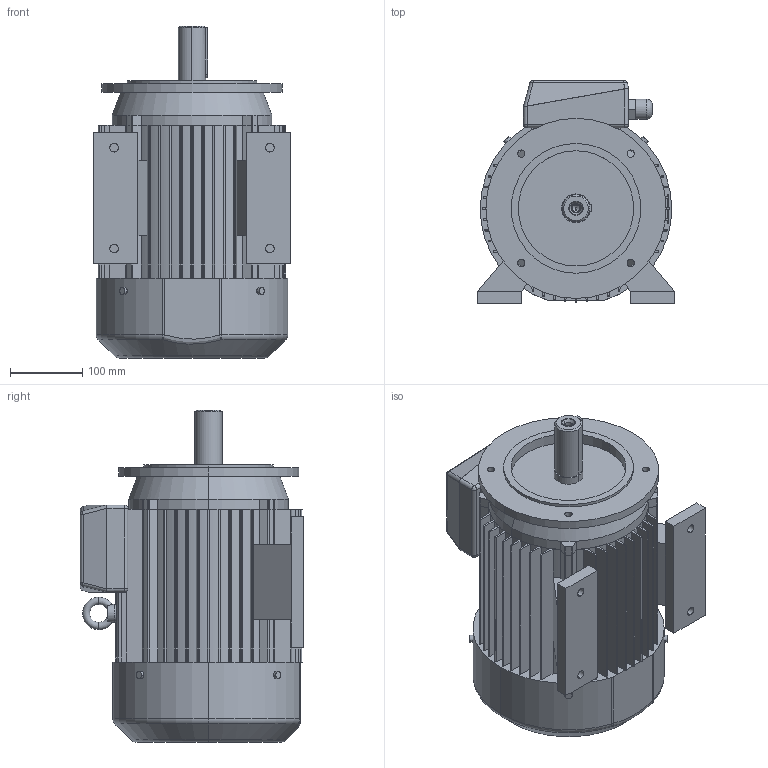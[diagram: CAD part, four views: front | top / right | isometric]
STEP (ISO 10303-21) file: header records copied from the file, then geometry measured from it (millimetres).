
FILE_DESCRIPTION (( 'STEP AP203' ), '1' );
FILE_NAME ('2SIEL132S2A,6-B34-C1.STEP', '2013-01-07T13:23:48', ( 'INDUKTA' ), ( 'CANTONI MOTOR' ), 'SwSTEP 2.0', 'SolidWorks 2003064', '' );
FILE_SCHEMA (( 'CONFIG_CONTROL_DESIGN' ));
Length unit declared in the file: millimetre
Products named in the file (1): 2SIEL132S2A,6-B34-C1
Bounding box: 274 x 310 x 461 mm (x, y, z)
Volume: 18797447.3 mm3; surface area: 1047047.7 mm2
Topology: 14 solids, 14 shells, 422 faces, 1110 edges, 703 vertices
Faces by surface type: cylinder 196, plane 188, cone 14, torus 13, sphere 10, bspline 1
Entity records: 13818 total; most frequent: CARTESIAN_POINT 3090, DIRECTION 2330, ORIENTED_EDGE 2196, EDGE_CURVE 1098, AXIS2_PLACEMENT_3D 847, VERTEX_POINT 703, LINE 636, VECTOR 636
